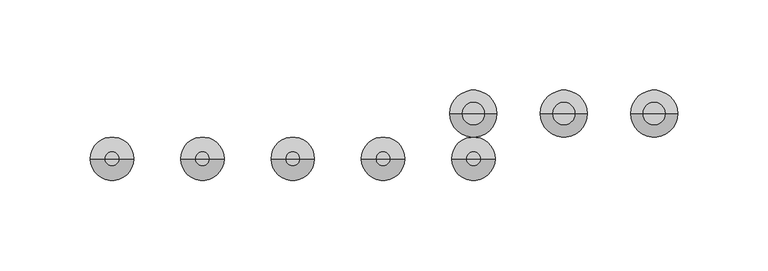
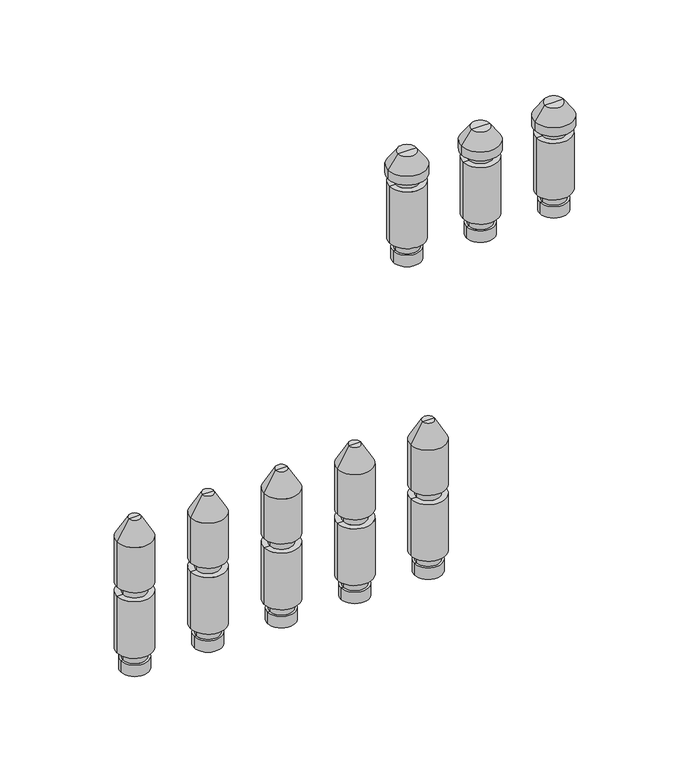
"""IFC4 building model written with IfcOpenShell, lengths in millimetres: valve geometry, PL CZ_Manifold_FT-VA : 13 circuits."""

from ifc_helpers import new_model, si_unit, frame, origin, place, context, project, spatial, polyline, circle_curve, source, transform, mapped, element, save
from ifc_brep_helpers import plane_surface, cylinder_surface, revolved_surface, advanced_brep


def valve_c6b07a0e(model_context):
    return source(origin(), model_context, "Body", "AdvancedBrep", [
        advanced_brep(
        [(428.5, 25.0, 174.88733), (447.5, 25.0, 174.88733), (438.0, 25.0, 174.88733), (428.5, 25.0, 182.9630354), (447.5, 25.0, 182.9630354), (430.0, 25.0, 182.9630354), (446.0, 25.0, 182.9630354), (430.0, 25.0, 189.669747), (446.0, 25.0, 189.669747), (426.0, 25.0, 189.669747), (450.0, 25.0, 189.669747), (426.0, 25.0, 230.330253), (450.0, 25.0, 230.330253), (430.0, 25.0, 230.330253), (446.0, 25.0, 230.330253), (430.0, 25.0, 236.0474786), (446.0, 25.0, 236.0474786), (425.0, 25.0, 236.0474786), (451.0, 25.0, 236.0474786), (425.0, 25.0, 242.337955), (451.0, 25.0, 242.337955), (431.6551779, 25.0, 251.842534), (444.3448221, 25.0, 251.842534), (438.0, 25.0, 251.842534)],
        [
            (0, 1, circle_curve(frame((438.0, 25.0, 174.88733), z_axis=(0.0, 0.0, -1.0), x_axis=(1.0, 0.0, 0.0)), 9.5)),
            (1, 2),
            (2, 0),
            (1, 0, circle_curve(frame((438.0, 25.0, 174.88733), z_axis=(0.0, 0.0, -1.0), x_axis=(1.0, 0.0, 0.0)), 9.5)),
            (3, 4, circle_curve(frame((438.0, 25.0, 182.9630354), z_axis=(0.0, 0.0, -1.0), x_axis=(1.0, 0.0, 0.0)), 9.5)),
            (4, 1),
            (0, 3),
            (4, 3, circle_curve(frame((438.0, 25.0, 182.9630354), z_axis=(0.0, 0.0, -1.0), x_axis=(1.0, 0.0, 0.0)), 9.5)),
            (5, 6, circle_curve(frame((438.0, 25.0, 182.9630354), z_axis=(0.0, 0.0, -1.0), x_axis=(1.0, 0.0, 0.0)), 8.0)),
            (6, 4),
            (3, 5),
            (6, 5, circle_curve(frame((438.0, 25.0, 182.9630354), z_axis=(0.0, 0.0, -1.0), x_axis=(1.0, 0.0, 0.0)), 8.0)),
            (7, 8, circle_curve(frame((438.0, 25.0, 189.669747), z_axis=(0.0, 0.0, -1.0), x_axis=(1.0, 0.0, 0.0)), 8.0)),
            (8, 6),
            (5, 7),
            (8, 7, circle_curve(frame((438.0, 25.0, 189.669747), z_axis=(0.0, 0.0, -1.0), x_axis=(1.0, 0.0, 0.0)), 8.0)),
            (9, 10, circle_curve(frame((438.0, 25.0, 189.669747), z_axis=(0.0, 0.0, -1.0), x_axis=(1.0, 0.0, 0.0)), 12.0)),
            (10, 8),
            (7, 9),
            (10, 9, circle_curve(frame((438.0, 25.0, 189.669747), z_axis=(0.0, 0.0, -1.0), x_axis=(1.0, 0.0, 0.0)), 12.0)),
            (11, 12, circle_curve(frame((438.0, 25.0, 230.330253), z_axis=(0.0, 0.0, -1.0), x_axis=(1.0, 0.0, 0.0)), 12.0)),
            (12, 10),
            (9, 11),
            (12, 11, circle_curve(frame((438.0, 25.0, 230.330253), z_axis=(0.0, 0.0, -1.0), x_axis=(1.0, 0.0, 0.0)), 12.0)),
            (13, 14, circle_curve(frame((438.0, 25.0, 230.330253), z_axis=(0.0, 0.0, -1.0), x_axis=(1.0, 0.0, 0.0)), 8.0)),
            (14, 12),
            (11, 13),
            (14, 13, circle_curve(frame((438.0, 25.0, 230.330253), z_axis=(0.0, 0.0, -1.0), x_axis=(1.0, 0.0, 0.0)), 8.0)),
            (15, 16, circle_curve(frame((438.0, 25.0, 236.0474786), z_axis=(0.0, 0.0, -1.0), x_axis=(1.0, 0.0, 0.0)), 8.0)),
            (16, 14),
            (13, 15),
            (16, 15, circle_curve(frame((438.0, 25.0, 236.0474786), z_axis=(0.0, 0.0, -1.0), x_axis=(1.0, 0.0, 0.0)), 8.0)),
            (17, 18, circle_curve(frame((438.0, 25.0, 236.0474786), z_axis=(0.0, 0.0, -1.0), x_axis=(1.0, 0.0, 0.0)), 13.0)),
            (18, 16),
            (15, 17),
            (18, 17, circle_curve(frame((438.0, 25.0, 236.0474786), z_axis=(0.0, 0.0, -1.0), x_axis=(1.0, 0.0, 0.0)), 13.0)),
            (19, 20, circle_curve(frame((438.0, 25.0, 242.337955), z_axis=(0.0, 0.0, -1.0), x_axis=(1.0, 0.0, 0.0)), 13.0)),
            (20, 18),
            (17, 19),
            (20, 19, circle_curve(frame((438.0, 25.0, 242.337955), z_axis=(0.0, 0.0, -1.0), x_axis=(1.0, 0.0, 0.0)), 13.0)),
            (21, 22, circle_curve(frame((438.0, 25.0, 251.842534), z_axis=(0.0, 0.0, -1.0), x_axis=(1.0, 0.0, 0.0)), 6.3448221)),
            (22, 20),
            (19, 21),
            (22, 21, circle_curve(frame((438.0, 25.0, 251.842534), z_axis=(0.0, 0.0, -1.0), x_axis=(1.0, 0.0, 0.0)), 6.3448221)),
            (23, 22),
            (21, 23),
        ],
        [
            plane_surface(frame((438.0, 25.0, 174.88733), z_axis=(0.0, 0.0, -1.0), x_axis=(1.0, 0.0, 0.0))),
            cylinder_surface(frame((438.0, 25.0, 247.7026565), z_axis=(0.0, 0.0, 1.0), x_axis=(1.0, 0.0, 0.0)), 9.5),
            plane_surface(frame((438.0, 25.0, 182.9630354), z_axis=(0.0, 0.0, 1.0), x_axis=(1.0, 0.0, 0.0))),
            cylinder_surface(frame((438.0, 25.0, 247.7026565), z_axis=(0.0, 0.0, 1.0), x_axis=(1.0, 0.0, 0.0)), 8.0),
            plane_surface(frame((438.0, 25.0, 189.669747), z_axis=(0.0, 0.0, -1.0), x_axis=(1.0, 0.0, 0.0))),
            cylinder_surface(frame((438.0, 25.0, 247.7026565), z_axis=(0.0, 0.0, 1.0), x_axis=(1.0, 0.0, 0.0)), 12.0),
            plane_surface(frame((438.0, 25.0, 230.330253), z_axis=(0.0, 0.0, 1.0), x_axis=(1.0, 0.0, 0.0))),
            plane_surface(frame((438.0, 25.0, 236.0474786), z_axis=(0.0, 0.0, -1.0), x_axis=(1.0, 0.0, 0.0))),
            cylinder_surface(frame((438.0, 25.0, 247.7026565), z_axis=(0.0, 0.0, 1.0), x_axis=(1.0, 0.0, 0.0)), 13.0),
            revolved_surface(polyline([(451.0, 25.0, 242.337955), (444.3448221, 25.0, 251.842534)]), (438.0, 25.0, 247.7026565), (0.0, 0.0, 1.0)),
            plane_surface(frame((438.0, 25.0, 251.842534), z_axis=(0.0, 0.0, 1.0), x_axis=(1.0, 0.0, 0.0))),
        ],
        [
            (0, [[1, 2, 3]]),
            (0, [[4, -3, -2]]),
            (1, [[5, 6, -1, 7]]),
            (1, [[8, -7, -4, -6]]),
            (2, [[9, 10, -5, 11]]),
            (2, [[12, -11, -8, -10]]),
            (3, [[13, 14, -9, 15]]),
            (3, [[16, -15, -12, -14]]),
            (4, [[17, 18, -13, 19]]),
            (4, [[20, -19, -16, -18]]),
            (5, [[21, 22, -17, 23]]),
            (5, [[24, -23, -20, -22]]),
            (6, [[25, 26, -21, 27]]),
            (6, [[28, -27, -24, -26]]),
            (3, [[29, 30, -25, 31]]),
            (3, [[32, -31, -28, -30]]),
            (7, [[33, 34, -29, 35]]),
            (7, [[36, -35, -32, -34]]),
            (8, [[37, 38, -33, 39]]),
            (8, [[40, -39, -36, -38]]),
            (9, [[41, 42, -37, 43]]),
            (9, [[44, -43, -40, -42]]),
            (10, [[45, -41, 46]]),
            (10, [[-46, -44, -45]]),
        ],
    ),
        advanced_brep(
        [(378.5, 25.0, 174.88733), (397.5, 25.0, 174.88733), (388.0, 25.0, 174.88733), (378.5, 25.0, 182.9630354), (397.5, 25.0, 182.9630354), (380.0, 25.0, 182.9630354), (396.0, 25.0, 182.9630354), (380.0, 25.0, 189.669747), (396.0, 25.0, 189.669747), (376.0, 25.0, 189.669747), (400.0, 25.0, 189.669747), (376.0, 25.0, 230.330253), (400.0, 25.0, 230.330253), (380.0, 25.0, 230.330253), (396.0, 25.0, 230.330253), (380.0, 25.0, 236.0474786), (396.0, 25.0, 236.0474786), (375.0, 25.0, 236.0474786), (401.0, 25.0, 236.0474786), (375.0, 25.0, 242.337955), (401.0, 25.0, 242.337955), (381.6551779, 25.0, 251.842534), (394.3448221, 25.0, 251.842534), (388.0, 25.0, 251.842534)],
        [
            (0, 1, circle_curve(frame((388.0, 25.0, 174.88733), z_axis=(0.0, 0.0, -1.0), x_axis=(1.0, 0.0, 0.0)), 9.5)),
            (1, 2),
            (2, 0),
            (1, 0, circle_curve(frame((388.0, 25.0, 174.88733), z_axis=(0.0, 0.0, -1.0), x_axis=(1.0, 0.0, 0.0)), 9.5)),
            (3, 4, circle_curve(frame((388.0, 25.0, 182.9630354), z_axis=(0.0, 0.0, -1.0), x_axis=(1.0, 0.0, 0.0)), 9.5)),
            (4, 1),
            (0, 3),
            (4, 3, circle_curve(frame((388.0, 25.0, 182.9630354), z_axis=(0.0, 0.0, -1.0), x_axis=(1.0, 0.0, 0.0)), 9.5)),
            (5, 6, circle_curve(frame((388.0, 25.0, 182.9630354), z_axis=(0.0, 0.0, -1.0), x_axis=(1.0, 0.0, 0.0)), 8.0)),
            (6, 4),
            (3, 5),
            (6, 5, circle_curve(frame((388.0, 25.0, 182.9630354), z_axis=(0.0, 0.0, -1.0), x_axis=(1.0, 0.0, 0.0)), 8.0)),
            (7, 8, circle_curve(frame((388.0, 25.0, 189.669747), z_axis=(0.0, 0.0, -1.0), x_axis=(1.0, 0.0, 0.0)), 8.0)),
            (8, 6),
            (5, 7),
            (8, 7, circle_curve(frame((388.0, 25.0, 189.669747), z_axis=(0.0, 0.0, -1.0), x_axis=(1.0, 0.0, 0.0)), 8.0)),
            (9, 10, circle_curve(frame((388.0, 25.0, 189.669747), z_axis=(0.0, 0.0, -1.0), x_axis=(1.0, 0.0, 0.0)), 12.0)),
            (10, 8),
            (7, 9),
            (10, 9, circle_curve(frame((388.0, 25.0, 189.669747), z_axis=(0.0, 0.0, -1.0), x_axis=(1.0, 0.0, 0.0)), 12.0)),
            (11, 12, circle_curve(frame((388.0, 25.0, 230.330253), z_axis=(0.0, 0.0, -1.0), x_axis=(1.0, 0.0, 0.0)), 12.0)),
            (12, 10),
            (9, 11),
            (12, 11, circle_curve(frame((388.0, 25.0, 230.330253), z_axis=(0.0, 0.0, -1.0), x_axis=(1.0, 0.0, 0.0)), 12.0)),
            (13, 14, circle_curve(frame((388.0, 25.0, 230.330253), z_axis=(0.0, 0.0, -1.0), x_axis=(1.0, 0.0, 0.0)), 8.0)),
            (14, 12),
            (11, 13),
            (14, 13, circle_curve(frame((388.0, 25.0, 230.330253), z_axis=(0.0, 0.0, -1.0), x_axis=(1.0, 0.0, 0.0)), 8.0)),
            (15, 16, circle_curve(frame((388.0, 25.0, 236.0474786), z_axis=(0.0, 0.0, -1.0), x_axis=(1.0, 0.0, 0.0)), 8.0)),
            (16, 14),
            (13, 15),
            (16, 15, circle_curve(frame((388.0, 25.0, 236.0474786), z_axis=(0.0, 0.0, -1.0), x_axis=(1.0, 0.0, 0.0)), 8.0)),
            (17, 18, circle_curve(frame((388.0, 25.0, 236.0474786), z_axis=(0.0, 0.0, -1.0), x_axis=(1.0, 0.0, 0.0)), 13.0)),
            (18, 16),
            (15, 17),
            (18, 17, circle_curve(frame((388.0, 25.0, 236.0474786), z_axis=(0.0, 0.0, -1.0), x_axis=(1.0, 0.0, 0.0)), 13.0)),
            (19, 20, circle_curve(frame((388.0, 25.0, 242.337955), z_axis=(0.0, 0.0, -1.0), x_axis=(1.0, 0.0, 0.0)), 13.0)),
            (20, 18),
            (17, 19),
            (20, 19, circle_curve(frame((388.0, 25.0, 242.337955), z_axis=(0.0, 0.0, -1.0), x_axis=(1.0, 0.0, 0.0)), 13.0)),
            (21, 22, circle_curve(frame((388.0, 25.0, 251.842534), z_axis=(0.0, 0.0, -1.0), x_axis=(1.0, 0.0, 0.0)), 6.3448221)),
            (22, 20),
            (19, 21),
            (22, 21, circle_curve(frame((388.0, 25.0, 251.842534), z_axis=(0.0, 0.0, -1.0), x_axis=(1.0, 0.0, 0.0)), 6.3448221)),
            (23, 22),
            (21, 23),
        ],
        [
            plane_surface(frame((388.0, 25.0, 174.88733), z_axis=(0.0, 0.0, -1.0), x_axis=(1.0, 0.0, 0.0))),
            cylinder_surface(frame((388.0, 25.0, 247.7026565), z_axis=(0.0, 0.0, 1.0), x_axis=(1.0, 0.0, 0.0)), 9.5),
            plane_surface(frame((388.0, 25.0, 182.9630354), z_axis=(0.0, 0.0, 1.0), x_axis=(1.0, 0.0, 0.0))),
            cylinder_surface(frame((388.0, 25.0, 247.7026565), z_axis=(0.0, 0.0, 1.0), x_axis=(1.0, 0.0, 0.0)), 8.0),
            plane_surface(frame((388.0, 25.0, 189.669747), z_axis=(0.0, 0.0, -1.0), x_axis=(1.0, 0.0, 0.0))),
            cylinder_surface(frame((388.0, 25.0, 247.7026565), z_axis=(0.0, 0.0, 1.0), x_axis=(1.0, 0.0, 0.0)), 12.0),
            plane_surface(frame((388.0, 25.0, 230.330253), z_axis=(0.0, 0.0, 1.0), x_axis=(1.0, 0.0, 0.0))),
            plane_surface(frame((388.0, 25.0, 236.0474786), z_axis=(0.0, 0.0, -1.0), x_axis=(1.0, 0.0, 0.0))),
            cylinder_surface(frame((388.0, 25.0, 247.7026565), z_axis=(0.0, 0.0, 1.0), x_axis=(1.0, 0.0, 0.0)), 13.0),
            revolved_surface(polyline([(401.0, 25.0, 242.337955), (394.3448221, 25.0, 251.842534)]), (388.0, 25.0, 247.7026565), (0.0, 0.0, 1.0)),
            plane_surface(frame((388.0, 25.0, 251.842534), z_axis=(0.0, 0.0, 1.0), x_axis=(1.0, 0.0, 0.0))),
        ],
        [
            (0, [[1, 2, 3]]),
            (0, [[4, -3, -2]]),
            (1, [[5, 6, -1, 7]]),
            (1, [[8, -7, -4, -6]]),
            (2, [[9, 10, -5, 11]]),
            (2, [[12, -11, -8, -10]]),
            (3, [[13, 14, -9, 15]]),
            (3, [[16, -15, -12, -14]]),
            (4, [[17, 18, -13, 19]]),
            (4, [[20, -19, -16, -18]]),
            (5, [[21, 22, -17, 23]]),
            (5, [[24, -23, -20, -22]]),
            (6, [[25, 26, -21, 27]]),
            (6, [[28, -27, -24, -26]]),
            (3, [[29, 30, -25, 31]]),
            (3, [[32, -31, -28, -30]]),
            (7, [[33, 34, -29, 35]]),
            (7, [[36, -35, -32, -34]]),
            (8, [[37, 38, -33, 39]]),
            (8, [[40, -39, -36, -38]]),
            (9, [[41, 42, -37, 43]]),
            (9, [[44, -43, -40, -42]]),
            (10, [[45, -41, 46]]),
            (10, [[-46, -44, -45]]),
        ],
    ),
        advanced_brep(
        [(328.5, 0.0, -35.11267), (347.5, 0.0, -35.11267), (338.0, 0.0, -35.11267), (328.5, 0.0, -27.0369646), (347.5, 0.0, -27.0369646), (330.0, 0.0, -27.0369646), (346.0, 0.0, -27.0369646), (330.0, 0.0, -20.330253), (346.0, 0.0, -20.330253), (326.0, 0.0, -20.330253), (350.0, 0.0, -20.330253), (326.0, 0.0, 20.330253), (350.0, 0.0, 20.330253), (330.0, 0.0, 20.330253), (346.0, 0.0, 20.330253), (330.0, 0.0, 27.0474786), (346.0, 0.0, 27.0474786), (326.0, 0.0, 27.0474786), (350.0, 0.0, 27.0474786), (326.0, 0.0, 59.4084325), (350.0, 0.0, 59.4084325), (334.0, 0.0, 73.264839), (342.0, 0.0, 73.264839), (338.0, 0.0, 73.264839)],
        [
            (0, 1, circle_curve(frame((338.0, 0.0, -35.11267), z_axis=(0.0, 0.0, -1.0), x_axis=(1.0, 0.0, 0.0)), 9.5)),
            (1, 2),
            (2, 0),
            (1, 0, circle_curve(frame((338.0, 0.0, -35.11267), z_axis=(0.0, 0.0, -1.0), x_axis=(1.0, 0.0, 0.0)), 9.5)),
            (3, 4, circle_curve(frame((338.0, 0.0, -27.0369646), z_axis=(0.0, 0.0, -1.0), x_axis=(1.0, 0.0, 0.0)), 9.5)),
            (4, 1),
            (0, 3),
            (4, 3, circle_curve(frame((338.0, 0.0, -27.0369646), z_axis=(0.0, 0.0, -1.0), x_axis=(1.0, 0.0, 0.0)), 9.5)),
            (5, 6, circle_curve(frame((338.0, 0.0, -27.0369646), z_axis=(0.0, 0.0, -1.0), x_axis=(1.0, 0.0, 0.0)), 8.0)),
            (6, 4),
            (3, 5),
            (6, 5, circle_curve(frame((338.0, 0.0, -27.0369646), z_axis=(0.0, 0.0, -1.0), x_axis=(1.0, 0.0, 0.0)), 8.0)),
            (7, 8, circle_curve(frame((338.0, 0.0, -20.330253), z_axis=(0.0, 0.0, -1.0), x_axis=(1.0, 0.0, 0.0)), 8.0)),
            (8, 6),
            (5, 7),
            (8, 7, circle_curve(frame((338.0, 0.0, -20.330253), z_axis=(0.0, 0.0, -1.0), x_axis=(1.0, 0.0, 0.0)), 8.0)),
            (9, 10, circle_curve(frame((338.0, 0.0, -20.330253), z_axis=(0.0, 0.0, -1.0), x_axis=(1.0, 0.0, 0.0)), 12.0)),
            (10, 8),
            (7, 9),
            (10, 9, circle_curve(frame((338.0, 0.0, -20.330253), z_axis=(0.0, 0.0, -1.0), x_axis=(1.0, 0.0, 0.0)), 12.0)),
            (11, 12, circle_curve(frame((338.0, 0.0, 20.330253), z_axis=(0.0, 0.0, -1.0), x_axis=(1.0, 0.0, 0.0)), 12.0)),
            (12, 10),
            (9, 11),
            (12, 11, circle_curve(frame((338.0, 0.0, 20.330253), z_axis=(0.0, 0.0, -1.0), x_axis=(1.0, 0.0, 0.0)), 12.0)),
            (13, 14, circle_curve(frame((338.0, 0.0, 20.330253), z_axis=(0.0, 0.0, -1.0), x_axis=(1.0, 0.0, 0.0)), 8.0)),
            (14, 12),
            (11, 13),
            (14, 13, circle_curve(frame((338.0, 0.0, 20.330253), z_axis=(0.0, 0.0, -1.0), x_axis=(1.0, 0.0, 0.0)), 8.0)),
            (15, 16, circle_curve(frame((338.0, 0.0, 27.0474786), z_axis=(0.0, 0.0, -1.0), x_axis=(1.0, 0.0, 0.0)), 8.0)),
            (16, 14),
            (13, 15),
            (16, 15, circle_curve(frame((338.0, 0.0, 27.0474786), z_axis=(0.0, 0.0, -1.0), x_axis=(1.0, 0.0, 0.0)), 8.0)),
            (17, 18, circle_curve(frame((338.0, 0.0, 27.0474786), z_axis=(0.0, 0.0, -1.0), x_axis=(1.0, 0.0, 0.0)), 12.0)),
            (18, 16),
            (15, 17),
            (18, 17, circle_curve(frame((338.0, 0.0, 27.0474786), z_axis=(0.0, 0.0, -1.0), x_axis=(1.0, 0.0, 0.0)), 12.0)),
            (19, 20, circle_curve(frame((338.0, 0.0, 59.4084325), z_axis=(0.0, 0.0, -1.0), x_axis=(1.0, 0.0, 0.0)), 12.0)),
            (20, 18),
            (17, 19),
            (20, 19, circle_curve(frame((338.0, 0.0, 59.4084325), z_axis=(0.0, 0.0, -1.0), x_axis=(1.0, 0.0, 0.0)), 12.0)),
            (21, 22, circle_curve(frame((338.0, 0.0, 73.264839), z_axis=(0.0, 0.0, -1.0), x_axis=(1.0, 0.0, 0.0)), 4.0)),
            (22, 20),
            (19, 21),
            (22, 21, circle_curve(frame((338.0, 0.0, 73.264839), z_axis=(0.0, 0.0, -1.0), x_axis=(1.0, 0.0, 0.0)), 4.0)),
            (23, 22),
            (21, 23),
        ],
        [
            plane_surface(frame((338.0, 0.0, -35.11267), z_axis=(0.0, 0.0, -1.0), x_axis=(1.0, 0.0, 0.0))),
            cylinder_surface(frame((338.0, 0.0, 58.264839), z_axis=(0.0, 0.0, 1.0), x_axis=(1.0, 0.0, 0.0)), 9.5),
            plane_surface(frame((338.0, 0.0, -27.0369646), z_axis=(0.0, 0.0, 1.0), x_axis=(1.0, 0.0, 0.0))),
            cylinder_surface(frame((338.0, 0.0, 58.264839), z_axis=(0.0, 0.0, 1.0), x_axis=(1.0, 0.0, 0.0)), 8.0),
            plane_surface(frame((338.0, 0.0, -20.330253), z_axis=(0.0, 0.0, -1.0), x_axis=(1.0, 0.0, 0.0))),
            cylinder_surface(frame((338.0, 0.0, 58.264839), z_axis=(0.0, 0.0, 1.0), x_axis=(1.0, 0.0, 0.0)), 12.0),
            plane_surface(frame((338.0, 0.0, 20.330253), z_axis=(0.0, 0.0, 1.0), x_axis=(1.0, 0.0, 0.0))),
            plane_surface(frame((338.0, 0.0, 27.0474786), z_axis=(0.0, 0.0, -1.0), x_axis=(1.0, 0.0, 0.0))),
            revolved_surface(polyline([(350.0, 0.0, 59.4084325), (342.0, 0.0, 73.264839)]), (338.0, 0.0, 58.264839), (0.0, 0.0, 1.0)),
            plane_surface(frame((338.0, 0.0, 73.264839), z_axis=(0.0, 0.0, 1.0), x_axis=(1.0, 0.0, 0.0))),
        ],
        [
            (0, [[1, 2, 3]]),
            (0, [[4, -3, -2]]),
            (1, [[5, 6, -1, 7]]),
            (1, [[8, -7, -4, -6]]),
            (2, [[9, 10, -5, 11]]),
            (2, [[12, -11, -8, -10]]),
            (3, [[13, 14, -9, 15]]),
            (3, [[16, -15, -12, -14]]),
            (4, [[17, 18, -13, 19]]),
            (4, [[20, -19, -16, -18]]),
            (5, [[21, 22, -17, 23]]),
            (5, [[24, -23, -20, -22]]),
            (6, [[25, 26, -21, 27]]),
            (6, [[28, -27, -24, -26]]),
            (3, [[29, 30, -25, 31]]),
            (3, [[32, -31, -28, -30]]),
            (7, [[33, 34, -29, 35]]),
            (7, [[36, -35, -32, -34]]),
            (5, [[37, 38, -33, 39]]),
            (5, [[40, -39, -36, -38]]),
            (8, [[41, 42, -37, 43]]),
            (8, [[44, -43, -40, -42]]),
            (9, [[45, -41, 46]]),
            (9, [[-46, -44, -45]]),
        ],
    ),
        advanced_brep(
        [(328.5, 25.0, 174.88733), (347.5, 25.0, 174.88733), (338.0, 25.0, 174.88733), (328.5, 25.0, 182.9630354), (347.5, 25.0, 182.9630354), (330.0, 25.0, 182.9630354), (346.0, 25.0, 182.9630354), (330.0, 25.0, 189.669747), (346.0, 25.0, 189.669747), (326.0, 25.0, 189.669747), (350.0, 25.0, 189.669747), (326.0, 25.0, 230.330253), (350.0, 25.0, 230.330253), (330.0, 25.0, 230.330253), (346.0, 25.0, 230.330253), (330.0, 25.0, 236.0474786), (346.0, 25.0, 236.0474786), (325.0, 25.0, 236.0474786), (351.0, 25.0, 236.0474786), (325.0, 25.0, 242.337955), (351.0, 25.0, 242.337955), (331.6551779, 25.0, 251.842534), (344.3448221, 25.0, 251.842534), (338.0, 25.0, 251.842534)],
        [
            (0, 1, circle_curve(frame((338.0, 25.0, 174.88733), z_axis=(0.0, 0.0, -1.0), x_axis=(1.0, 0.0, 0.0)), 9.5)),
            (1, 2),
            (2, 0),
            (1, 0, circle_curve(frame((338.0, 25.0, 174.88733), z_axis=(0.0, 0.0, -1.0), x_axis=(1.0, 0.0, 0.0)), 9.5)),
            (3, 4, circle_curve(frame((338.0, 25.0, 182.9630354), z_axis=(0.0, 0.0, -1.0), x_axis=(1.0, 0.0, 0.0)), 9.5)),
            (4, 1),
            (0, 3),
            (4, 3, circle_curve(frame((338.0, 25.0, 182.9630354), z_axis=(0.0, 0.0, -1.0), x_axis=(1.0, 0.0, 0.0)), 9.5)),
            (5, 6, circle_curve(frame((338.0, 25.0, 182.9630354), z_axis=(0.0, 0.0, -1.0), x_axis=(1.0, 0.0, 0.0)), 8.0)),
            (6, 4),
            (3, 5),
            (6, 5, circle_curve(frame((338.0, 25.0, 182.9630354), z_axis=(0.0, 0.0, -1.0), x_axis=(1.0, 0.0, 0.0)), 8.0)),
            (7, 8, circle_curve(frame((338.0, 25.0, 189.669747), z_axis=(0.0, 0.0, -1.0), x_axis=(1.0, 0.0, 0.0)), 8.0)),
            (8, 6),
            (5, 7),
            (8, 7, circle_curve(frame((338.0, 25.0, 189.669747), z_axis=(0.0, 0.0, -1.0), x_axis=(1.0, 0.0, 0.0)), 8.0)),
            (9, 10, circle_curve(frame((338.0, 25.0, 189.669747), z_axis=(0.0, 0.0, -1.0), x_axis=(1.0, 0.0, 0.0)), 12.0)),
            (10, 8),
            (7, 9),
            (10, 9, circle_curve(frame((338.0, 25.0, 189.669747), z_axis=(0.0, 0.0, -1.0), x_axis=(1.0, 0.0, 0.0)), 12.0)),
            (11, 12, circle_curve(frame((338.0, 25.0, 230.330253), z_axis=(0.0, 0.0, -1.0), x_axis=(1.0, 0.0, 0.0)), 12.0)),
            (12, 10),
            (9, 11),
            (12, 11, circle_curve(frame((338.0, 25.0, 230.330253), z_axis=(0.0, 0.0, -1.0), x_axis=(1.0, 0.0, 0.0)), 12.0)),
            (13, 14, circle_curve(frame((338.0, 25.0, 230.330253), z_axis=(0.0, 0.0, -1.0), x_axis=(1.0, 0.0, 0.0)), 8.0)),
            (14, 12),
            (11, 13),
            (14, 13, circle_curve(frame((338.0, 25.0, 230.330253), z_axis=(0.0, 0.0, -1.0), x_axis=(1.0, 0.0, 0.0)), 8.0)),
            (15, 16, circle_curve(frame((338.0, 25.0, 236.0474786), z_axis=(0.0, 0.0, -1.0), x_axis=(1.0, 0.0, 0.0)), 8.0)),
            (16, 14),
            (13, 15),
            (16, 15, circle_curve(frame((338.0, 25.0, 236.0474786), z_axis=(0.0, 0.0, -1.0), x_axis=(1.0, 0.0, 0.0)), 8.0)),
            (17, 18, circle_curve(frame((338.0, 25.0, 236.0474786), z_axis=(0.0, 0.0, -1.0), x_axis=(1.0, 0.0, 0.0)), 13.0)),
            (18, 16),
            (15, 17),
            (18, 17, circle_curve(frame((338.0, 25.0, 236.0474786), z_axis=(0.0, 0.0, -1.0), x_axis=(1.0, 0.0, 0.0)), 13.0)),
            (19, 20, circle_curve(frame((338.0, 25.0, 242.337955), z_axis=(0.0, 0.0, -1.0), x_axis=(1.0, 0.0, 0.0)), 13.0)),
            (20, 18),
            (17, 19),
            (20, 19, circle_curve(frame((338.0, 25.0, 242.337955), z_axis=(0.0, 0.0, -1.0), x_axis=(1.0, 0.0, 0.0)), 13.0)),
            (21, 22, circle_curve(frame((338.0, 25.0, 251.842534), z_axis=(0.0, 0.0, -1.0), x_axis=(1.0, 0.0, 0.0)), 6.3448221)),
            (22, 20),
            (19, 21),
            (22, 21, circle_curve(frame((338.0, 25.0, 251.842534), z_axis=(0.0, 0.0, -1.0), x_axis=(1.0, 0.0, 0.0)), 6.3448221)),
            (23, 22),
            (21, 23),
        ],
        [
            plane_surface(frame((338.0, 25.0, 174.88733), z_axis=(0.0, 0.0, -1.0), x_axis=(1.0, 0.0, 0.0))),
            cylinder_surface(frame((338.0, 25.0, 247.7026565), z_axis=(0.0, 0.0, 1.0), x_axis=(1.0, 0.0, 0.0)), 9.5),
            plane_surface(frame((338.0, 25.0, 182.9630354), z_axis=(0.0, 0.0, 1.0), x_axis=(1.0, 0.0, 0.0))),
            cylinder_surface(frame((338.0, 25.0, 247.7026565), z_axis=(0.0, 0.0, 1.0), x_axis=(1.0, 0.0, 0.0)), 8.0),
            plane_surface(frame((338.0, 25.0, 189.669747), z_axis=(0.0, 0.0, -1.0), x_axis=(1.0, 0.0, 0.0))),
            cylinder_surface(frame((338.0, 25.0, 247.7026565), z_axis=(0.0, 0.0, 1.0), x_axis=(1.0, 0.0, 0.0)), 12.0),
            plane_surface(frame((338.0, 25.0, 230.330253), z_axis=(0.0, 0.0, 1.0), x_axis=(1.0, 0.0, 0.0))),
            plane_surface(frame((338.0, 25.0, 236.0474786), z_axis=(0.0, 0.0, -1.0), x_axis=(1.0, 0.0, 0.0))),
            cylinder_surface(frame((338.0, 25.0, 247.7026565), z_axis=(0.0, 0.0, 1.0), x_axis=(1.0, 0.0, 0.0)), 13.0),
            revolved_surface(polyline([(351.0, 25.0, 242.337955), (344.3448221, 25.0, 251.842534)]), (338.0, 25.0, 247.7026565), (0.0, 0.0, 1.0)),
            plane_surface(frame((338.0, 25.0, 251.842534), z_axis=(0.0, 0.0, 1.0), x_axis=(1.0, 0.0, 0.0))),
        ],
        [
            (0, [[1, 2, 3]]),
            (0, [[4, -3, -2]]),
            (1, [[5, 6, -1, 7]]),
            (1, [[8, -7, -4, -6]]),
            (2, [[9, 10, -5, 11]]),
            (2, [[12, -11, -8, -10]]),
            (3, [[13, 14, -9, 15]]),
            (3, [[16, -15, -12, -14]]),
            (4, [[17, 18, -13, 19]]),
            (4, [[20, -19, -16, -18]]),
            (5, [[21, 22, -17, 23]]),
            (5, [[24, -23, -20, -22]]),
            (6, [[25, 26, -21, 27]]),
            (6, [[28, -27, -24, -26]]),
            (3, [[29, 30, -25, 31]]),
            (3, [[32, -31, -28, -30]]),
            (7, [[33, 34, -29, 35]]),
            (7, [[36, -35, -32, -34]]),
            (8, [[37, 38, -33, 39]]),
            (8, [[40, -39, -36, -38]]),
            (9, [[41, 42, -37, 43]]),
            (9, [[44, -43, -40, -42]]),
            (10, [[45, -41, 46]]),
            (10, [[-46, -44, -45]]),
        ],
    ),
        advanced_brep(
        [(278.5, 0.0, -35.11267), (297.5, 0.0, -35.11267), (288.0, 0.0, -35.11267), (278.5, 0.0, -27.0369646), (297.5, 0.0, -27.0369646), (280.0, 0.0, -27.0369646), (296.0, 0.0, -27.0369646), (280.0, 0.0, -20.330253), (296.0, 0.0, -20.330253), (276.0, 0.0, -20.330253), (300.0, 0.0, -20.330253), (276.0, 0.0, 20.330253), (300.0, 0.0, 20.330253), (280.0, 0.0, 20.330253), (296.0, 0.0, 20.330253), (280.0, 0.0, 27.0474786), (296.0, 0.0, 27.0474786), (276.0, 0.0, 27.0474786), (300.0, 0.0, 27.0474786), (276.0, 0.0, 59.4084325), (300.0, 0.0, 59.4084325), (284.0, 0.0, 73.264839), (292.0, 0.0, 73.264839), (288.0, 0.0, 73.264839)],
        [
            (0, 1, circle_curve(frame((288.0, 0.0, -35.11267), z_axis=(0.0, 0.0, -1.0), x_axis=(1.0, 0.0, 0.0)), 9.5)),
            (1, 2),
            (2, 0),
            (1, 0, circle_curve(frame((288.0, 0.0, -35.11267), z_axis=(0.0, 0.0, -1.0), x_axis=(1.0, 0.0, 0.0)), 9.5)),
            (3, 4, circle_curve(frame((288.0, 0.0, -27.0369646), z_axis=(0.0, 0.0, -1.0), x_axis=(1.0, 0.0, 0.0)), 9.5)),
            (4, 1),
            (0, 3),
            (4, 3, circle_curve(frame((288.0, 0.0, -27.0369646), z_axis=(0.0, 0.0, -1.0), x_axis=(1.0, 0.0, 0.0)), 9.5)),
            (5, 6, circle_curve(frame((288.0, 0.0, -27.0369646), z_axis=(0.0, 0.0, -1.0), x_axis=(1.0, 0.0, 0.0)), 8.0)),
            (6, 4),
            (3, 5),
            (6, 5, circle_curve(frame((288.0, 0.0, -27.0369646), z_axis=(0.0, 0.0, -1.0), x_axis=(1.0, 0.0, 0.0)), 8.0)),
            (7, 8, circle_curve(frame((288.0, 0.0, -20.330253), z_axis=(0.0, 0.0, -1.0), x_axis=(1.0, 0.0, 0.0)), 8.0)),
            (8, 6),
            (5, 7),
            (8, 7, circle_curve(frame((288.0, 0.0, -20.330253), z_axis=(0.0, 0.0, -1.0), x_axis=(1.0, 0.0, 0.0)), 8.0)),
            (9, 10, circle_curve(frame((288.0, 0.0, -20.330253), z_axis=(0.0, 0.0, -1.0), x_axis=(1.0, 0.0, 0.0)), 12.0)),
            (10, 8),
            (7, 9),
            (10, 9, circle_curve(frame((288.0, 0.0, -20.330253), z_axis=(0.0, 0.0, -1.0), x_axis=(1.0, 0.0, 0.0)), 12.0)),
            (11, 12, circle_curve(frame((288.0, 0.0, 20.330253), z_axis=(0.0, 0.0, -1.0), x_axis=(1.0, 0.0, 0.0)), 12.0)),
            (12, 10),
            (9, 11),
            (12, 11, circle_curve(frame((288.0, 0.0, 20.330253), z_axis=(0.0, 0.0, -1.0), x_axis=(1.0, 0.0, 0.0)), 12.0)),
            (13, 14, circle_curve(frame((288.0, 0.0, 20.330253), z_axis=(0.0, 0.0, -1.0), x_axis=(1.0, 0.0, 0.0)), 8.0)),
            (14, 12),
            (11, 13),
            (14, 13, circle_curve(frame((288.0, 0.0, 20.330253), z_axis=(0.0, 0.0, -1.0), x_axis=(1.0, 0.0, 0.0)), 8.0)),
            (15, 16, circle_curve(frame((288.0, 0.0, 27.0474786), z_axis=(0.0, 0.0, -1.0), x_axis=(1.0, 0.0, 0.0)), 8.0)),
            (16, 14),
            (13, 15),
            (16, 15, circle_curve(frame((288.0, 0.0, 27.0474786), z_axis=(0.0, 0.0, -1.0), x_axis=(1.0, 0.0, 0.0)), 8.0)),
            (17, 18, circle_curve(frame((288.0, 0.0, 27.0474786), z_axis=(0.0, 0.0, -1.0), x_axis=(1.0, 0.0, 0.0)), 12.0)),
            (18, 16),
            (15, 17),
            (18, 17, circle_curve(frame((288.0, 0.0, 27.0474786), z_axis=(0.0, 0.0, -1.0), x_axis=(1.0, 0.0, 0.0)), 12.0)),
            (19, 20, circle_curve(frame((288.0, 0.0, 59.4084325), z_axis=(0.0, 0.0, -1.0), x_axis=(1.0, 0.0, 0.0)), 12.0)),
            (20, 18),
            (17, 19),
            (20, 19, circle_curve(frame((288.0, 0.0, 59.4084325), z_axis=(0.0, 0.0, -1.0), x_axis=(1.0, 0.0, 0.0)), 12.0)),
            (21, 22, circle_curve(frame((288.0, 0.0, 73.264839), z_axis=(0.0, 0.0, -1.0), x_axis=(1.0, 0.0, 0.0)), 4.0)),
            (22, 20),
            (19, 21),
            (22, 21, circle_curve(frame((288.0, 0.0, 73.264839), z_axis=(0.0, 0.0, -1.0), x_axis=(1.0, 0.0, 0.0)), 4.0)),
            (23, 22),
            (21, 23),
        ],
        [
            plane_surface(frame((288.0, 0.0, -35.11267), z_axis=(0.0, 0.0, -1.0), x_axis=(1.0, 0.0, 0.0))),
            cylinder_surface(frame((288.0, 0.0, 58.264839), z_axis=(0.0, 0.0, 1.0), x_axis=(1.0, 0.0, 0.0)), 9.5),
            plane_surface(frame((288.0, 0.0, -27.0369646), z_axis=(0.0, 0.0, 1.0), x_axis=(1.0, 0.0, 0.0))),
            cylinder_surface(frame((288.0, 0.0, 58.264839), z_axis=(0.0, 0.0, 1.0), x_axis=(1.0, 0.0, 0.0)), 8.0),
            plane_surface(frame((288.0, 0.0, -20.330253), z_axis=(0.0, 0.0, -1.0), x_axis=(1.0, 0.0, 0.0))),
            cylinder_surface(frame((288.0, 0.0, 58.264839), z_axis=(0.0, 0.0, 1.0), x_axis=(1.0, 0.0, 0.0)), 12.0),
            plane_surface(frame((288.0, 0.0, 20.330253), z_axis=(0.0, 0.0, 1.0), x_axis=(1.0, 0.0, 0.0))),
            plane_surface(frame((288.0, 0.0, 27.0474786), z_axis=(0.0, 0.0, -1.0), x_axis=(1.0, 0.0, 0.0))),
            revolved_surface(polyline([(300.0, 0.0, 59.4084325), (292.0, 0.0, 73.264839)]), (288.0, 0.0, 58.264839), (0.0, 0.0, 1.0)),
            plane_surface(frame((288.0, 0.0, 73.264839), z_axis=(0.0, 0.0, 1.0), x_axis=(1.0, 0.0, 0.0))),
        ],
        [
            (0, [[1, 2, 3]]),
            (0, [[4, -3, -2]]),
            (1, [[5, 6, -1, 7]]),
            (1, [[8, -7, -4, -6]]),
            (2, [[9, 10, -5, 11]]),
            (2, [[12, -11, -8, -10]]),
            (3, [[13, 14, -9, 15]]),
            (3, [[16, -15, -12, -14]]),
            (4, [[17, 18, -13, 19]]),
            (4, [[20, -19, -16, -18]]),
            (5, [[21, 22, -17, 23]]),
            (5, [[24, -23, -20, -22]]),
            (6, [[25, 26, -21, 27]]),
            (6, [[28, -27, -24, -26]]),
            (3, [[29, 30, -25, 31]]),
            (3, [[32, -31, -28, -30]]),
            (7, [[33, 34, -29, 35]]),
            (7, [[36, -35, -32, -34]]),
            (5, [[37, 38, -33, 39]]),
            (5, [[40, -39, -36, -38]]),
            (8, [[41, 42, -37, 43]]),
            (8, [[44, -43, -40, -42]]),
            (9, [[45, -41, 46]]),
            (9, [[-46, -44, -45]]),
        ],
    ),
        advanced_brep(
        [(228.5, 0.0, -35.11267), (247.5, 0.0, -35.11267), (238.0, 0.0, -35.11267), (228.5, 0.0, -27.0369646), (247.5, 0.0, -27.0369646), (230.0, 0.0, -27.0369646), (246.0, 0.0, -27.0369646), (230.0, 0.0, -20.330253), (246.0, 0.0, -20.330253), (226.0, 0.0, -20.330253), (250.0, 0.0, -20.330253), (226.0, 0.0, 20.330253), (250.0, 0.0, 20.330253), (230.0, 0.0, 20.330253), (246.0, 0.0, 20.330253), (230.0, 0.0, 27.0474786), (246.0, 0.0, 27.0474786), (226.0, 0.0, 27.0474786), (250.0, 0.0, 27.0474786), (226.0, 0.0, 59.4084325), (250.0, 0.0, 59.4084325), (234.0, 0.0, 73.264839), (242.0, 0.0, 73.264839), (238.0, 0.0, 73.264839)],
        [
            (0, 1, circle_curve(frame((238.0, 0.0, -35.11267), z_axis=(0.0, 0.0, -1.0), x_axis=(1.0, 0.0, 0.0)), 9.5)),
            (1, 2),
            (2, 0),
            (1, 0, circle_curve(frame((238.0, 0.0, -35.11267), z_axis=(0.0, 0.0, -1.0), x_axis=(1.0, 0.0, 0.0)), 9.5)),
            (3, 4, circle_curve(frame((238.0, 0.0, -27.0369646), z_axis=(0.0, 0.0, -1.0), x_axis=(1.0, 0.0, 0.0)), 9.5)),
            (4, 1),
            (0, 3),
            (4, 3, circle_curve(frame((238.0, 0.0, -27.0369646), z_axis=(0.0, 0.0, -1.0), x_axis=(1.0, 0.0, 0.0)), 9.5)),
            (5, 6, circle_curve(frame((238.0, 0.0, -27.0369646), z_axis=(0.0, 0.0, -1.0), x_axis=(1.0, 0.0, 0.0)), 8.0)),
            (6, 4),
            (3, 5),
            (6, 5, circle_curve(frame((238.0, 0.0, -27.0369646), z_axis=(0.0, 0.0, -1.0), x_axis=(1.0, 0.0, 0.0)), 8.0)),
            (7, 8, circle_curve(frame((238.0, 0.0, -20.330253), z_axis=(0.0, 0.0, -1.0), x_axis=(1.0, 0.0, 0.0)), 8.0)),
            (8, 6),
            (5, 7),
            (8, 7, circle_curve(frame((238.0, 0.0, -20.330253), z_axis=(0.0, 0.0, -1.0), x_axis=(1.0, 0.0, 0.0)), 8.0)),
            (9, 10, circle_curve(frame((238.0, 0.0, -20.330253), z_axis=(0.0, 0.0, -1.0), x_axis=(1.0, 0.0, 0.0)), 12.0)),
            (10, 8),
            (7, 9),
            (10, 9, circle_curve(frame((238.0, 0.0, -20.330253), z_axis=(0.0, 0.0, -1.0), x_axis=(1.0, 0.0, 0.0)), 12.0)),
            (11, 12, circle_curve(frame((238.0, 0.0, 20.330253), z_axis=(0.0, 0.0, -1.0), x_axis=(1.0, 0.0, 0.0)), 12.0)),
            (12, 10),
            (9, 11),
            (12, 11, circle_curve(frame((238.0, 0.0, 20.330253), z_axis=(0.0, 0.0, -1.0), x_axis=(1.0, 0.0, 0.0)), 12.0)),
            (13, 14, circle_curve(frame((238.0, 0.0, 20.330253), z_axis=(0.0, 0.0, -1.0), x_axis=(1.0, 0.0, 0.0)), 8.0)),
            (14, 12),
            (11, 13),
            (14, 13, circle_curve(frame((238.0, 0.0, 20.330253), z_axis=(0.0, 0.0, -1.0), x_axis=(1.0, 0.0, 0.0)), 8.0)),
            (15, 16, circle_curve(frame((238.0, 0.0, 27.0474786), z_axis=(0.0, 0.0, -1.0), x_axis=(1.0, 0.0, 0.0)), 8.0)),
            (16, 14),
            (13, 15),
            (16, 15, circle_curve(frame((238.0, 0.0, 27.0474786), z_axis=(0.0, 0.0, -1.0), x_axis=(1.0, 0.0, 0.0)), 8.0)),
            (17, 18, circle_curve(frame((238.0, 0.0, 27.0474786), z_axis=(0.0, 0.0, -1.0), x_axis=(1.0, 0.0, 0.0)), 12.0)),
            (18, 16),
            (15, 17),
            (18, 17, circle_curve(frame((238.0, 0.0, 27.0474786), z_axis=(0.0, 0.0, -1.0), x_axis=(1.0, 0.0, 0.0)), 12.0)),
            (19, 20, circle_curve(frame((238.0, 0.0, 59.4084325), z_axis=(0.0, 0.0, -1.0), x_axis=(1.0, 0.0, 0.0)), 12.0)),
            (20, 18),
            (17, 19),
            (20, 19, circle_curve(frame((238.0, 0.0, 59.4084325), z_axis=(0.0, 0.0, -1.0), x_axis=(1.0, 0.0, 0.0)), 12.0)),
            (21, 22, circle_curve(frame((238.0, 0.0, 73.264839), z_axis=(0.0, 0.0, -1.0), x_axis=(1.0, 0.0, 0.0)), 4.0)),
            (22, 20),
            (19, 21),
            (22, 21, circle_curve(frame((238.0, 0.0, 73.264839), z_axis=(0.0, 0.0, -1.0), x_axis=(1.0, 0.0, 0.0)), 4.0)),
            (23, 22),
            (21, 23),
        ],
        [
            plane_surface(frame((238.0, 0.0, -35.11267), z_axis=(0.0, 0.0, -1.0), x_axis=(1.0, 0.0, 0.0))),
            cylinder_surface(frame((238.0, 0.0, 58.264839), z_axis=(0.0, 0.0, 1.0), x_axis=(1.0, 0.0, 0.0)), 9.5),
            plane_surface(frame((238.0, 0.0, -27.0369646), z_axis=(0.0, 0.0, 1.0), x_axis=(1.0, 0.0, 0.0))),
            cylinder_surface(frame((238.0, 0.0, 58.264839), z_axis=(0.0, 0.0, 1.0), x_axis=(1.0, 0.0, 0.0)), 8.0),
            plane_surface(frame((238.0, 0.0, -20.330253), z_axis=(0.0, 0.0, -1.0), x_axis=(1.0, 0.0, 0.0))),
            cylinder_surface(frame((238.0, 0.0, 58.264839), z_axis=(0.0, 0.0, 1.0), x_axis=(1.0, 0.0, 0.0)), 12.0),
            plane_surface(frame((238.0, 0.0, 20.330253), z_axis=(0.0, 0.0, 1.0), x_axis=(1.0, 0.0, 0.0))),
            plane_surface(frame((238.0, 0.0, 27.0474786), z_axis=(0.0, 0.0, -1.0), x_axis=(1.0, 0.0, 0.0))),
            revolved_surface(polyline([(250.0, 0.0, 59.4084325), (242.0, 0.0, 73.264839)]), (238.0, 0.0, 58.264839), (0.0, 0.0, 1.0)),
            plane_surface(frame((238.0, 0.0, 73.264839), z_axis=(0.0, 0.0, 1.0), x_axis=(1.0, 0.0, 0.0))),
        ],
        [
            (0, [[1, 2, 3]]),
            (0, [[4, -3, -2]]),
            (1, [[5, 6, -1, 7]]),
            (1, [[8, -7, -4, -6]]),
            (2, [[9, 10, -5, 11]]),
            (2, [[12, -11, -8, -10]]),
            (3, [[13, 14, -9, 15]]),
            (3, [[16, -15, -12, -14]]),
            (4, [[17, 18, -13, 19]]),
            (4, [[20, -19, -16, -18]]),
            (5, [[21, 22, -17, 23]]),
            (5, [[24, -23, -20, -22]]),
            (6, [[25, 26, -21, 27]]),
            (6, [[28, -27, -24, -26]]),
            (3, [[29, 30, -25, 31]]),
            (3, [[32, -31, -28, -30]]),
            (7, [[33, 34, -29, 35]]),
            (7, [[36, -35, -32, -34]]),
            (5, [[37, 38, -33, 39]]),
            (5, [[40, -39, -36, -38]]),
            (8, [[41, 42, -37, 43]]),
            (8, [[44, -43, -40, -42]]),
            (9, [[45, -41, 46]]),
            (9, [[-46, -44, -45]]),
        ],
    ),
        advanced_brep(
        [(178.5, 0.0, -35.11267), (197.5, 0.0, -35.11267), (188.0, 0.0, -35.11267), (178.5, 0.0, -27.0369646), (197.5, 0.0, -27.0369646), (180.0, 0.0, -27.0369646), (196.0, 0.0, -27.0369646), (180.0, 0.0, -20.330253), (196.0, 0.0, -20.330253), (176.0, 0.0, -20.330253), (200.0, 0.0, -20.330253), (176.0, 0.0, 20.330253), (200.0, 0.0, 20.330253), (180.0, 0.0, 20.330253), (196.0, 0.0, 20.330253), (180.0, 0.0, 27.0474786), (196.0, 0.0, 27.0474786), (176.0, 0.0, 27.0474786), (200.0, 0.0, 27.0474786), (176.0, 0.0, 59.4084325), (200.0, 0.0, 59.4084325), (184.0, 0.0, 73.264839), (192.0, 0.0, 73.264839), (188.0, 0.0, 73.264839)],
        [
            (0, 1, circle_curve(frame((188.0, 0.0, -35.11267), z_axis=(0.0, 0.0, -1.0), x_axis=(1.0, 0.0, 0.0)), 9.5)),
            (1, 2),
            (2, 0),
            (1, 0, circle_curve(frame((188.0, 0.0, -35.11267), z_axis=(0.0, 0.0, -1.0), x_axis=(1.0, 0.0, 0.0)), 9.5)),
            (3, 4, circle_curve(frame((188.0, 0.0, -27.0369646), z_axis=(0.0, 0.0, -1.0), x_axis=(1.0, 0.0, 0.0)), 9.5)),
            (4, 1),
            (0, 3),
            (4, 3, circle_curve(frame((188.0, 0.0, -27.0369646), z_axis=(0.0, 0.0, -1.0), x_axis=(1.0, 0.0, 0.0)), 9.5)),
            (5, 6, circle_curve(frame((188.0, 0.0, -27.0369646), z_axis=(0.0, 0.0, -1.0), x_axis=(1.0, 0.0, 0.0)), 8.0)),
            (6, 4),
            (3, 5),
            (6, 5, circle_curve(frame((188.0, 0.0, -27.0369646), z_axis=(0.0, 0.0, -1.0), x_axis=(1.0, 0.0, 0.0)), 8.0)),
            (7, 8, circle_curve(frame((188.0, 0.0, -20.330253), z_axis=(0.0, 0.0, -1.0), x_axis=(1.0, 0.0, 0.0)), 8.0)),
            (8, 6),
            (5, 7),
            (8, 7, circle_curve(frame((188.0, 0.0, -20.330253), z_axis=(0.0, 0.0, -1.0), x_axis=(1.0, 0.0, 0.0)), 8.0)),
            (9, 10, circle_curve(frame((188.0, 0.0, -20.330253), z_axis=(0.0, 0.0, -1.0), x_axis=(1.0, 0.0, 0.0)), 12.0)),
            (10, 8),
            (7, 9),
            (10, 9, circle_curve(frame((188.0, 0.0, -20.330253), z_axis=(0.0, 0.0, -1.0), x_axis=(1.0, 0.0, 0.0)), 12.0)),
            (11, 12, circle_curve(frame((188.0, 0.0, 20.330253), z_axis=(0.0, 0.0, -1.0), x_axis=(1.0, 0.0, 0.0)), 12.0)),
            (12, 10),
            (9, 11),
            (12, 11, circle_curve(frame((188.0, 0.0, 20.330253), z_axis=(0.0, 0.0, -1.0), x_axis=(1.0, 0.0, 0.0)), 12.0)),
            (13, 14, circle_curve(frame((188.0, 0.0, 20.330253), z_axis=(0.0, 0.0, -1.0), x_axis=(1.0, 0.0, 0.0)), 8.0)),
            (14, 12),
            (11, 13),
            (14, 13, circle_curve(frame((188.0, 0.0, 20.330253), z_axis=(0.0, 0.0, -1.0), x_axis=(1.0, 0.0, 0.0)), 8.0)),
            (15, 16, circle_curve(frame((188.0, 0.0, 27.0474786), z_axis=(0.0, 0.0, -1.0), x_axis=(1.0, 0.0, 0.0)), 8.0)),
            (16, 14),
            (13, 15),
            (16, 15, circle_curve(frame((188.0, 0.0, 27.0474786), z_axis=(0.0, 0.0, -1.0), x_axis=(1.0, 0.0, 0.0)), 8.0)),
            (17, 18, circle_curve(frame((188.0, 0.0, 27.0474786), z_axis=(0.0, 0.0, -1.0), x_axis=(1.0, 0.0, 0.0)), 12.0)),
            (18, 16),
            (15, 17),
            (18, 17, circle_curve(frame((188.0, 0.0, 27.0474786), z_axis=(0.0, 0.0, -1.0), x_axis=(1.0, 0.0, 0.0)), 12.0)),
            (19, 20, circle_curve(frame((188.0, 0.0, 59.4084325), z_axis=(0.0, 0.0, -1.0), x_axis=(1.0, 0.0, 0.0)), 12.0)),
            (20, 18),
            (17, 19),
            (20, 19, circle_curve(frame((188.0, 0.0, 59.4084325), z_axis=(0.0, 0.0, -1.0), x_axis=(1.0, 0.0, 0.0)), 12.0)),
            (21, 22, circle_curve(frame((188.0, 0.0, 73.264839), z_axis=(0.0, 0.0, -1.0), x_axis=(1.0, 0.0, 0.0)), 4.0)),
            (22, 20),
            (19, 21),
            (22, 21, circle_curve(frame((188.0, 0.0, 73.264839), z_axis=(0.0, 0.0, -1.0), x_axis=(1.0, 0.0, 0.0)), 4.0)),
            (23, 22),
            (21, 23),
        ],
        [
            plane_surface(frame((188.0, 0.0, -35.11267), z_axis=(0.0, 0.0, -1.0), x_axis=(1.0, 0.0, 0.0))),
            cylinder_surface(frame((188.0, 0.0, 58.264839), z_axis=(0.0, 0.0, 1.0), x_axis=(1.0, 0.0, 0.0)), 9.5),
            plane_surface(frame((188.0, 0.0, -27.0369646), z_axis=(0.0, 0.0, 1.0), x_axis=(1.0, 0.0, 0.0))),
            cylinder_surface(frame((188.0, 0.0, 58.264839), z_axis=(0.0, 0.0, 1.0), x_axis=(1.0, 0.0, 0.0)), 8.0),
            plane_surface(frame((188.0, 0.0, -20.330253), z_axis=(0.0, 0.0, -1.0), x_axis=(1.0, 0.0, 0.0))),
            cylinder_surface(frame((188.0, 0.0, 58.264839), z_axis=(0.0, 0.0, 1.0), x_axis=(1.0, 0.0, 0.0)), 12.0),
            plane_surface(frame((188.0, 0.0, 20.330253), z_axis=(0.0, 0.0, 1.0), x_axis=(1.0, 0.0, 0.0))),
            plane_surface(frame((188.0, 0.0, 27.0474786), z_axis=(0.0, 0.0, -1.0), x_axis=(1.0, 0.0, 0.0))),
            revolved_surface(polyline([(200.0, 0.0, 59.4084325), (192.0, 0.0, 73.264839)]), (188.0, 0.0, 58.264839), (0.0, 0.0, 1.0)),
            plane_surface(frame((188.0, 0.0, 73.264839), z_axis=(0.0, 0.0, 1.0), x_axis=(1.0, 0.0, 0.0))),
        ],
        [
            (0, [[1, 2, 3]]),
            (0, [[4, -3, -2]]),
            (1, [[5, 6, -1, 7]]),
            (1, [[8, -7, -4, -6]]),
            (2, [[9, 10, -5, 11]]),
            (2, [[12, -11, -8, -10]]),
            (3, [[13, 14, -9, 15]]),
            (3, [[16, -15, -12, -14]]),
            (4, [[17, 18, -13, 19]]),
            (4, [[20, -19, -16, -18]]),
            (5, [[21, 22, -17, 23]]),
            (5, [[24, -23, -20, -22]]),
            (6, [[25, 26, -21, 27]]),
            (6, [[28, -27, -24, -26]]),
            (3, [[29, 30, -25, 31]]),
            (3, [[32, -31, -28, -30]]),
            (7, [[33, 34, -29, 35]]),
            (7, [[36, -35, -32, -34]]),
            (5, [[37, 38, -33, 39]]),
            (5, [[40, -39, -36, -38]]),
            (8, [[41, 42, -37, 43]]),
            (8, [[44, -43, -40, -42]]),
            (9, [[45, -41, 46]]),
            (9, [[-46, -44, -45]]),
        ],
    ),
        advanced_brep(
        [(128.5, 0.0, -35.11267), (147.5, 0.0, -35.11267), (138.0, 0.0, -35.11267), (128.5, 0.0, -27.0369646), (147.5, 0.0, -27.0369646), (130.0, 0.0, -27.0369646), (146.0, 0.0, -27.0369646), (130.0, 0.0, -20.330253), (146.0, 0.0, -20.330253), (126.0, 0.0, -20.330253), (150.0, 0.0, -20.330253), (126.0, 0.0, 20.330253), (150.0, 0.0, 20.330253), (130.0, 0.0, 20.330253), (146.0, 0.0, 20.330253), (130.0, 0.0, 27.0474786), (146.0, 0.0, 27.0474786), (126.0, 0.0, 27.0474786), (150.0, 0.0, 27.0474786), (126.0, 0.0, 59.4084325), (150.0, 0.0, 59.4084325), (134.0, 0.0, 73.264839), (142.0, 0.0, 73.264839), (138.0, 0.0, 73.264839)],
        [
            (0, 1, circle_curve(frame((138.0, 0.0, -35.11267), z_axis=(0.0, 0.0, -1.0), x_axis=(1.0, 0.0, 0.0)), 9.5)),
            (1, 2),
            (2, 0),
            (1, 0, circle_curve(frame((138.0, 0.0, -35.11267), z_axis=(0.0, 0.0, -1.0), x_axis=(1.0, 0.0, 0.0)), 9.5)),
            (3, 4, circle_curve(frame((138.0, 0.0, -27.0369646), z_axis=(0.0, 0.0, -1.0), x_axis=(1.0, 0.0, 0.0)), 9.5)),
            (4, 1),
            (0, 3),
            (4, 3, circle_curve(frame((138.0, 0.0, -27.0369646), z_axis=(0.0, 0.0, -1.0), x_axis=(1.0, 0.0, 0.0)), 9.5)),
            (5, 6, circle_curve(frame((138.0, 0.0, -27.0369646), z_axis=(0.0, 0.0, -1.0), x_axis=(1.0, 0.0, 0.0)), 8.0)),
            (6, 4),
            (3, 5),
            (6, 5, circle_curve(frame((138.0, 0.0, -27.0369646), z_axis=(0.0, 0.0, -1.0), x_axis=(1.0, 0.0, 0.0)), 8.0)),
            (7, 8, circle_curve(frame((138.0, 0.0, -20.330253), z_axis=(0.0, 0.0, -1.0), x_axis=(1.0, 0.0, 0.0)), 8.0)),
            (8, 6),
            (5, 7),
            (8, 7, circle_curve(frame((138.0, 0.0, -20.330253), z_axis=(0.0, 0.0, -1.0), x_axis=(1.0, 0.0, 0.0)), 8.0)),
            (9, 10, circle_curve(frame((138.0, 0.0, -20.330253), z_axis=(0.0, 0.0, -1.0), x_axis=(1.0, 0.0, 0.0)), 12.0)),
            (10, 8),
            (7, 9),
            (10, 9, circle_curve(frame((138.0, 0.0, -20.330253), z_axis=(0.0, 0.0, -1.0), x_axis=(1.0, 0.0, 0.0)), 12.0)),
            (11, 12, circle_curve(frame((138.0, 0.0, 20.330253), z_axis=(0.0, 0.0, -1.0), x_axis=(1.0, 0.0, 0.0)), 12.0)),
            (12, 10),
            (9, 11),
            (12, 11, circle_curve(frame((138.0, 0.0, 20.330253), z_axis=(0.0, 0.0, -1.0), x_axis=(1.0, 0.0, 0.0)), 12.0)),
            (13, 14, circle_curve(frame((138.0, 0.0, 20.330253), z_axis=(0.0, 0.0, -1.0), x_axis=(1.0, 0.0, 0.0)), 8.0)),
            (14, 12),
            (11, 13),
            (14, 13, circle_curve(frame((138.0, 0.0, 20.330253), z_axis=(0.0, 0.0, -1.0), x_axis=(1.0, 0.0, 0.0)), 8.0)),
            (15, 16, circle_curve(frame((138.0, 0.0, 27.0474786), z_axis=(0.0, 0.0, -1.0), x_axis=(1.0, 0.0, 0.0)), 8.0)),
            (16, 14),
            (13, 15),
            (16, 15, circle_curve(frame((138.0, 0.0, 27.0474786), z_axis=(0.0, 0.0, -1.0), x_axis=(1.0, 0.0, 0.0)), 8.0)),
            (17, 18, circle_curve(frame((138.0, 0.0, 27.0474786), z_axis=(0.0, 0.0, -1.0), x_axis=(1.0, 0.0, 0.0)), 12.0)),
            (18, 16),
            (15, 17),
            (18, 17, circle_curve(frame((138.0, 0.0, 27.0474786), z_axis=(0.0, 0.0, -1.0), x_axis=(1.0, 0.0, 0.0)), 12.0)),
            (19, 20, circle_curve(frame((138.0, 0.0, 59.4084325), z_axis=(0.0, 0.0, -1.0), x_axis=(1.0, 0.0, 0.0)), 12.0)),
            (20, 18),
            (17, 19),
            (20, 19, circle_curve(frame((138.0, 0.0, 59.4084325), z_axis=(0.0, 0.0, -1.0), x_axis=(1.0, 0.0, 0.0)), 12.0)),
            (21, 22, circle_curve(frame((138.0, 0.0, 73.264839), z_axis=(0.0, 0.0, -1.0), x_axis=(1.0, 0.0, 0.0)), 4.0)),
            (22, 20),
            (19, 21),
            (22, 21, circle_curve(frame((138.0, 0.0, 73.264839), z_axis=(0.0, 0.0, -1.0), x_axis=(1.0, 0.0, 0.0)), 4.0)),
            (23, 22),
            (21, 23),
        ],
        [
            plane_surface(frame((138.0, 0.0, -35.11267), z_axis=(0.0, 0.0, -1.0), x_axis=(1.0, 0.0, 0.0))),
            cylinder_surface(frame((138.0, 0.0, 58.264839), z_axis=(0.0, 0.0, 1.0), x_axis=(1.0, 0.0, 0.0)), 9.5),
            plane_surface(frame((138.0, 0.0, -27.0369646), z_axis=(0.0, 0.0, 1.0), x_axis=(1.0, 0.0, 0.0))),
            cylinder_surface(frame((138.0, 0.0, 58.264839), z_axis=(0.0, 0.0, 1.0), x_axis=(1.0, 0.0, 0.0)), 8.0),
            plane_surface(frame((138.0, 0.0, -20.330253), z_axis=(0.0, 0.0, -1.0), x_axis=(1.0, 0.0, 0.0))),
            cylinder_surface(frame((138.0, 0.0, 58.264839), z_axis=(0.0, 0.0, 1.0), x_axis=(1.0, 0.0, 0.0)), 12.0),
            plane_surface(frame((138.0, 0.0, 20.330253), z_axis=(0.0, 0.0, 1.0), x_axis=(1.0, 0.0, 0.0))),
            plane_surface(frame((138.0, 0.0, 27.0474786), z_axis=(0.0, 0.0, -1.0), x_axis=(1.0, 0.0, 0.0))),
            revolved_surface(polyline([(150.0, 0.0, 59.4084325), (142.0, 0.0, 73.264839)]), (138.0, 0.0, 58.264839), (0.0, 0.0, 1.0)),
            plane_surface(frame((138.0, 0.0, 73.264839), z_axis=(0.0, 0.0, 1.0), x_axis=(1.0, 0.0, 0.0))),
        ],
        [
            (0, [[1, 2, 3]]),
            (0, [[4, -3, -2]]),
            (1, [[5, 6, -1, 7]]),
            (1, [[8, -7, -4, -6]]),
            (2, [[9, 10, -5, 11]]),
            (2, [[12, -11, -8, -10]]),
            (3, [[13, 14, -9, 15]]),
            (3, [[16, -15, -12, -14]]),
            (4, [[17, 18, -13, 19]]),
            (4, [[20, -19, -16, -18]]),
            (5, [[21, 22, -17, 23]]),
            (5, [[24, -23, -20, -22]]),
            (6, [[25, 26, -21, 27]]),
            (6, [[28, -27, -24, -26]]),
            (3, [[29, 30, -25, 31]]),
            (3, [[32, -31, -28, -30]]),
            (7, [[33, 34, -29, 35]]),
            (7, [[36, -35, -32, -34]]),
            (5, [[37, 38, -33, 39]]),
            (5, [[40, -39, -36, -38]]),
            (8, [[41, 42, -37, 43]]),
            (8, [[44, -43, -40, -42]]),
            (9, [[45, -41, 46]]),
            (9, [[-46, -44, -45]]),
        ],
    ),
    ])


if __name__ == "__main__":
    model = new_model("IFC4")
    model_context = context("Model", 3, world=origin())
    ifc_project = project(units=[si_unit("LENGTHUNIT", "METRE", prefix="MILLI")], contexts=[model_context])
    site = spatial("IfcSite", under=ifc_project)
    building = spatial("IfcBuilding", under=site)
    placement = place(None, origin())
    valve_shape = valve_c6b07a0e(model_context)
    element("IfcValve", 1, ObjectType="PL CZ_Manifold_FT-VA : 13 circuits", at=placement, inside=building, context=model_context, shape_type="MappedRepresentation", body=[
        mapped(valve_shape, transform((0.0, 0.0, 0.0), x_axis=(1.0, 0.0, 0.0), y_axis=(0.0, 1.0, 0.0), z_axis=(0.0, 0.0, 1.0))),
    ])
    save(model, "model.ifc")
